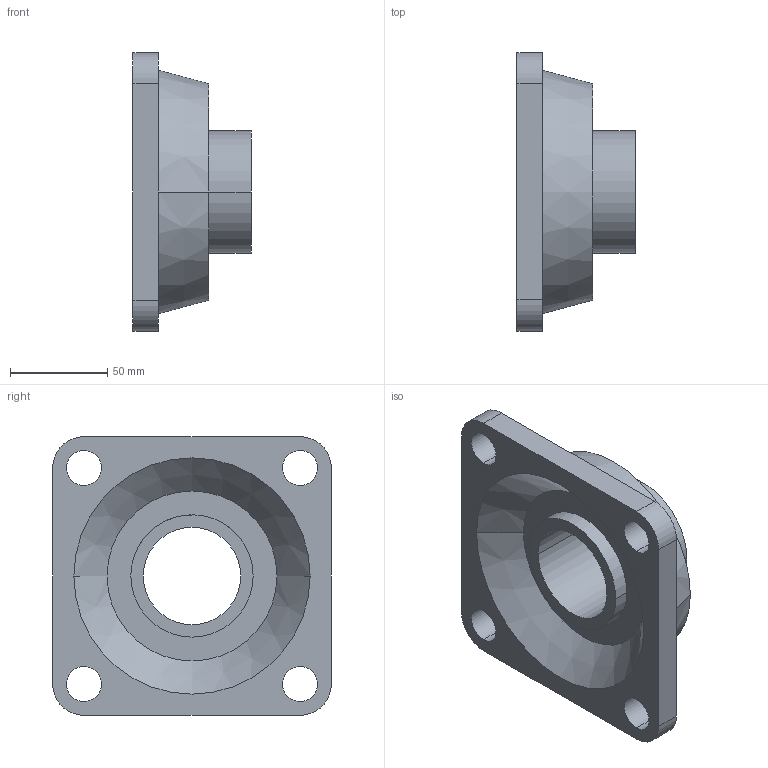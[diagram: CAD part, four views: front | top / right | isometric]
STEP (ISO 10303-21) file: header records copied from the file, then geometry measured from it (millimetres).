
FILE_DESCRIPTION(('SolidDesigner STEP Export'),'2;1');
FILE_NAME('Flanschlager_RCJY_50.stp','2002-07-16T11:46:40',(''),(''),'SolidDesigner STEP processor Version: 9.0 (March 2001)for AP214(CD)(Solid Model)','CoCreate SolidDesigner: 11.00 12-Dec-2001(C) CoCreate Software GmbH','');
FILE_SCHEMA(('AUTOMOTIVE_DESIGN_CC2 {1 2 10303 214 -1 1 5 1}'));
Length unit declared in the file: millimetre
Products named in the file (1): Flanschlager_RCJY_50
Bounding box: 60.6 x 143 x 143 mm (x, y, z)
Volume: 378492.1 mm3; surface area: 68164.9 mm2
Topology: 1 solids, 1 shells, 32 faces, 79 edges, 53 vertices
Faces by surface type: cylinder 18, plane 10, cone 4
Entity records: 873 total; most frequent: ORIENTED_EDGE 158, CARTESIAN_POINT 136, DIRECTION 132, EDGE_CURVE 79, VERTEX_POINT 53, AXIS2_PLACEMENT_3D 49, EDGE_LOOP 46, VECTOR 34
